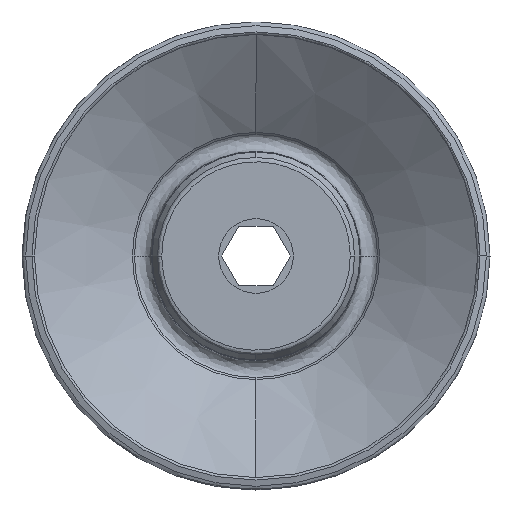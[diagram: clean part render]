
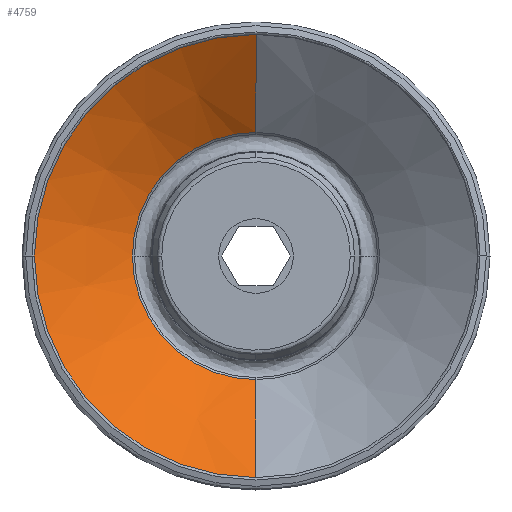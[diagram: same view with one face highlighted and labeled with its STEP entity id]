
A CAD part, front view. The second image highlights one B-rep face of the part: STEP entity #4759.
In plain terms, the highlighted conical face has half-angle 55.336 degrees and reference radius 22.25 mm.
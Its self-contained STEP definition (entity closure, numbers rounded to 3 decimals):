
#754 = EDGE_CURVE ( 'NONE', #12355, #11189, #2349, .T. ) ;
#819 = AXIS2_PLACEMENT_3D ( 'NONE', #9049, #6663, #13812 ) ;
#903 = AXIS2_PLACEMENT_3D ( 'NONE', #3067, #11390, #4275 ) ;
#1058 = EDGE_CURVE ( 'NONE', #6574, #14914, #12046, .T. ) ;
#1422 = ORIENTED_EDGE ( 'NONE', *, *, #3169, .F. ) ;
#1607 = CARTESIAN_POINT ( 'NONE',  ( 0., -35.569, 0. ) ) ;
#1730 = CARTESIAN_POINT ( 'NONE',  ( 0., -35.569, 22.25 ) ) ;
#2199 = VECTOR ( 'NONE', #11102, 1000. ) ;
#2349 = LINE ( 'NONE', #4386, #4228 ) ;
#2433 = VERTEX_POINT ( 'NONE', #9651 ) ;
#2546 = CARTESIAN_POINT ( 'NONE',  ( -22.25, -35.569, 0. ) ) ;
#2604 = AXIS2_PLACEMENT_3D ( 'NONE', #4004, #12320, #5201 ) ;
#2883 = DIRECTION ( 'NONE',  ( 0., -1., 0. ) ) ;
#3008 = ORIENTED_EDGE ( 'NONE', *, *, #3828, .F. ) ;
#3067 = CARTESIAN_POINT ( 'NONE',  ( 0., -28.768, 0. ) ) ;
#3169 = EDGE_CURVE ( 'NONE', #11189, #6574, #8278, .T. ) ;
#3828 = EDGE_CURVE ( 'NONE', #10716, #12355, #15020, .T. ) ;
#4004 = CARTESIAN_POINT ( 'NONE',  ( 0., -35.569, 0. ) ) ;
#4228 = VECTOR ( 'NONE', #13686, 1000. ) ;
#4275 = DIRECTION ( 'NONE',  ( -1., 0., 0. ) ) ;
#4386 = CARTESIAN_POINT ( 'NONE',  ( 0., -35.569, -22.25 ) ) ;
#4510 = AXIS2_PLACEMENT_3D ( 'NONE', #10024, #2883, #11222 ) ;
#4759 = ADVANCED_FACE ( 'NONE', ( #8523 ), #10180, .F. ) ;
#4810 = CARTESIAN_POINT ( 'NONE',  ( 0., -28.768, -12.415 ) ) ;
#5201 = DIRECTION ( 'NONE',  ( -1., 0., 0. ) ) ;
#5236 = ORIENTED_EDGE ( 'NONE', *, *, #754, .F. ) ;
#5277 = DIRECTION ( 'NONE',  ( 0., 1., 0. ) ) ;
#6574 = VERTEX_POINT ( 'NONE', #2546 ) ;
#6663 = DIRECTION ( 'NONE',  ( 0., -1., 0. ) ) ;
#8278 = CIRCLE ( 'NONE', #2604, 22.25 ) ;
#8523 = FACE_OUTER_BOUND ( 'NONE', #8818, .T. ) ;
#8560 = LINE ( 'NONE', #9848, #2199 ) ;
#8818 = EDGE_LOOP ( 'NONE', ( #11946, #13151, #11012, #1422, #5236, #3008 ) ) ;
#8961 = DIRECTION ( 'NONE',  ( -1., 0., 0. ) ) ;
#9049 = CARTESIAN_POINT ( 'NONE',  ( 0., -35.569, 0. ) ) ;
#9596 = CARTESIAN_POINT ( 'NONE',  ( -12.415, -28.768, 0. ) ) ;
#9651 = CARTESIAN_POINT ( 'NONE',  ( 0., -28.768, 12.415 ) ) ;
#9848 = CARTESIAN_POINT ( 'NONE',  ( 0., -35.569, 22.25 ) ) ;
#9855 = EDGE_CURVE ( 'NONE', #2433, #10716, #9932, .T. ) ;
#9932 = CIRCLE ( 'NONE', #4510, 12.415 ) ;
#10024 = CARTESIAN_POINT ( 'NONE',  ( 0., -28.768, 0. ) ) ;
#10180 = CONICAL_SURFACE ( 'NONE', #819, 22.25, 0.966 ) ;
#10716 = VERTEX_POINT ( 'NONE', #9596 ) ;
#10733 = AXIS2_PLACEMENT_3D ( 'NONE', #1607, #5277, #8961 ) ;
#10966 = EDGE_CURVE ( 'NONE', #2433, #14914, #8560, .T. ) ;
#11012 = ORIENTED_EDGE ( 'NONE', *, *, #1058, .F. ) ;
#11102 = DIRECTION ( 'NONE',  ( 0., -0.569, 0.822 ) ) ;
#11189 = VERTEX_POINT ( 'NONE', #12669 ) ;
#11222 = DIRECTION ( 'NONE',  ( -1., 0., 0. ) ) ;
#11390 = DIRECTION ( 'NONE',  ( 0., -1., 0. ) ) ;
#11946 = ORIENTED_EDGE ( 'NONE', *, *, #9855, .F. ) ;
#12046 = CIRCLE ( 'NONE', #10733, 22.25 ) ;
#12320 = DIRECTION ( 'NONE',  ( 0., 1., 0. ) ) ;
#12355 = VERTEX_POINT ( 'NONE', #4810 ) ;
#12669 = CARTESIAN_POINT ( 'NONE',  ( 0., -35.569, -22.25 ) ) ;
#13151 = ORIENTED_EDGE ( 'NONE', *, *, #10966, .T. ) ;
#13686 = DIRECTION ( 'NONE',  ( 0., -0.569, -0.822 ) ) ;
#13812 = DIRECTION ( 'NONE',  ( 0., 0., -1. ) ) ;
#14914 = VERTEX_POINT ( 'NONE', #1730 ) ;
#15020 = CIRCLE ( 'NONE', #903, 12.415 ) ;
